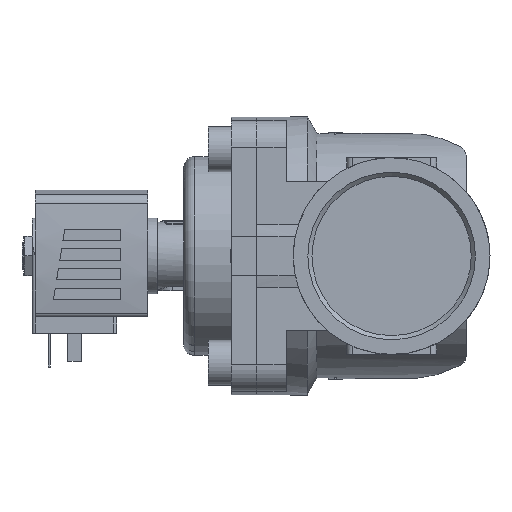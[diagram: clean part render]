
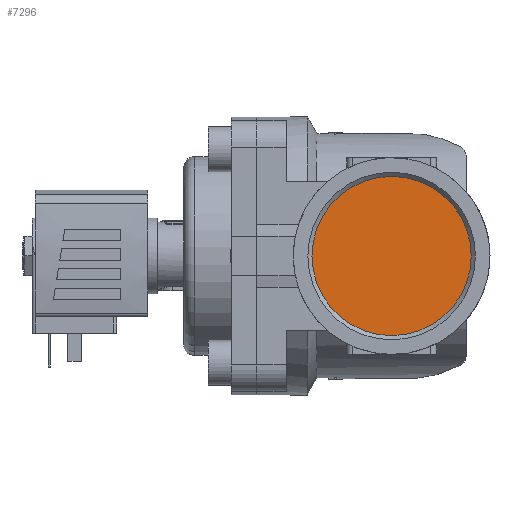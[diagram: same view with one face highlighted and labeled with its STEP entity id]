
A CAD part, left-side view. The second image highlights one B-rep face of the part: STEP entity #7296.
In plain terms, the highlighted planar face has unit normal (-1, 0, 0).
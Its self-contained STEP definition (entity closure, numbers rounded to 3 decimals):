
#2594=ORIENTED_EDGE('',*,*,#3769,.F.);
#3769=EDGE_CURVE('',#4458,#4458,#4788,.T.);
#4458=VERTEX_POINT('',#11282);
#4788=CIRCLE('',#7842,28.328);
#5096=EDGE_LOOP('',(#2594));
#5489=FACE_BOUND('',#5096,.T.);
#5776=PLANE('',#7843);
#7296=ADVANCED_FACE('',(#5489),#5776,.T.);
#7842=AXIS2_PLACEMENT_3D('',#11281,#9224,#9225);
#7843=AXIS2_PLACEMENT_3D('',#11283,#9226,#9227);
#9224=DIRECTION('',(1.,0.,0.));
#9225=DIRECTION('',(0.,1.,0.));
#9226=DIRECTION('',(-1.,0.,0.));
#9227=DIRECTION('',(0.,-1.,0.));
#11281=CARTESIAN_POINT('',(-39.5,0.,0.));
#11282=CARTESIAN_POINT('',(-39.5,28.328,0.));
#11283=CARTESIAN_POINT('',(-39.5,28.328,0.));
